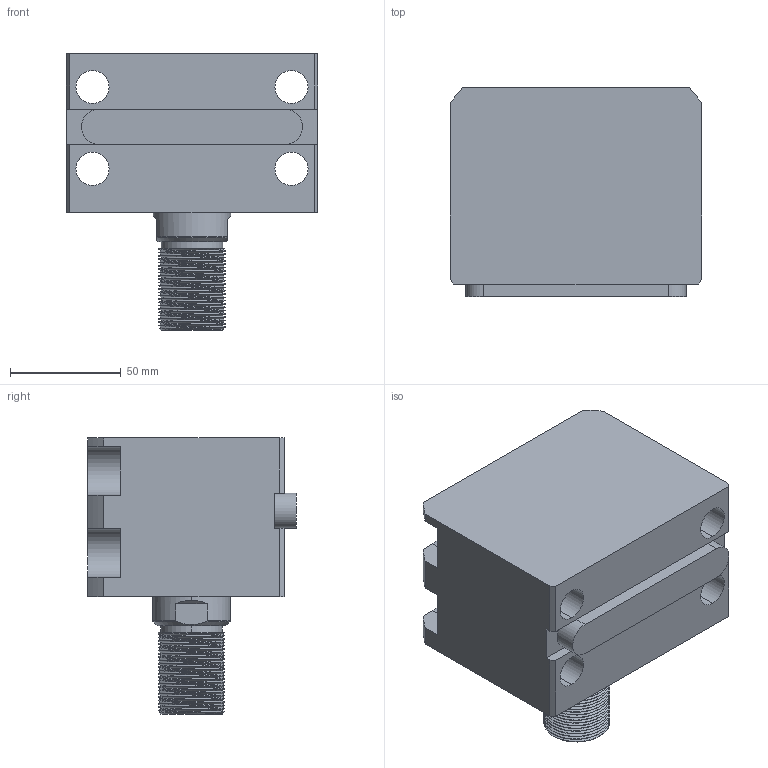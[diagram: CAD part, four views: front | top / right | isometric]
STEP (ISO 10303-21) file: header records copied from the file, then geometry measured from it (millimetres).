
FILE_DESCRIPTION (( 'STEP AP214' ), '1' );
FILE_NAME ('chtb-la63x5w_asm.STEP', '2018-05-17T02:51:31', ( 'Windows' ), ( 'Microsoft' ), 'SwSTEP 2.0', 'SolidWorks 2015', '' );
FILE_SCHEMA (( 'AUTOMOTIVE_DESIGN' ));
Length unit declared in the file: millimetre
Products named in the file (5): CHTB-LA63X5NBT; CHTB-LA63PJ; CHTB63X5WHSG; CHTB-63QG; chtb-la63x5w_asm
Assembly tree (4 placements, depth 2):
  chtb-la63x5w_asm
    CHTB-63QG
    CHTB63X5WHSG
    CHTB-LA63PJ
    CHTB-LA63X5NBT
Bounding box: 114 x 94.5 x 125 mm (x, y, z)
Volume: 680665.4 mm3; surface area: 125482.5 mm2
Topology: 4 solids, 4 shells, 228 faces, 670 edges, 457 vertices
Faces by surface type: cylinder 147, plane 48, bspline 14, cone 13, torus 6
Entity records: 22769 total; most frequent: CARTESIAN_POINT 17126, ORIENTED_EDGE 1332, DIRECTION 940, EDGE_CURVE 666, VERTEX_POINT 457, AXIS2_PLACEMENT_3D 350, EDGE_LOOP 253, VECTOR 240
